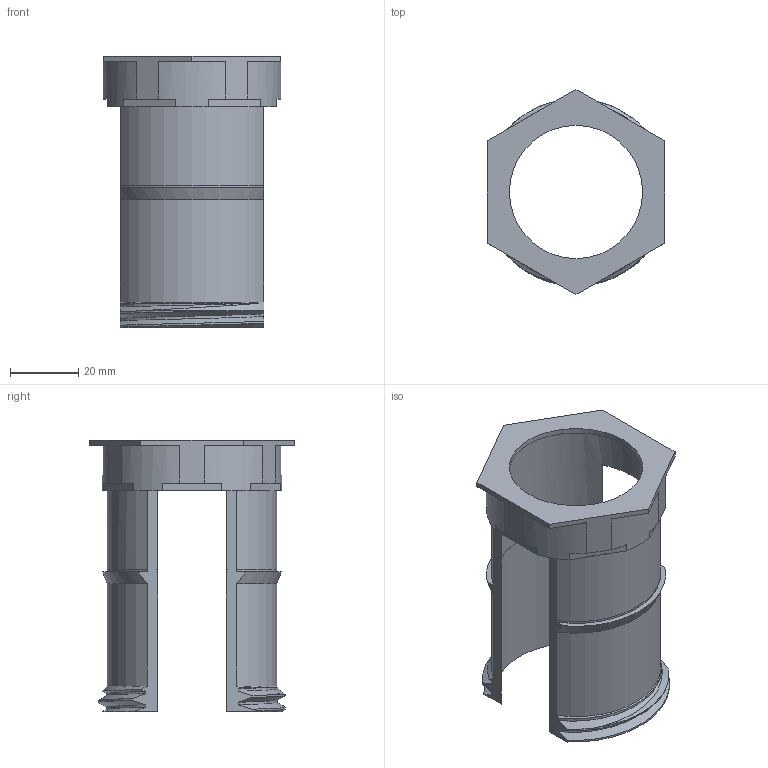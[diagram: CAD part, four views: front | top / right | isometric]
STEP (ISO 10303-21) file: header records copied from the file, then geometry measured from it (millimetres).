
FILE_DESCRIPTION(/* description */ (''),/* implementation_level */ '2;1');
FILE_NAME(/* name */ 'D:/Dokumenty/3D/Luke''s 3D/Projects/Spool winder v3/STEP/Adapter.step',/* time_stamp */ '2021-11-14T12:42:23+01:00',/* author */ (''),/* organization */ (''),/* preprocessor_version */ 'ST-DEVELOPER v18.1',/* originating_system */ 'Autodesk Translation Framework v10.10.0.1391',/* authorisation */ '');
FILE_SCHEMA (('AUTOMOTIVE_DESIGN { 1 0 10303 214 3 1 1 }'));
Length unit declared in the file: millimetre
Products named in the file (2): Bearing socket adapter 2; Adapter
Assembly tree (1 placements, depth 2):
  Bearing socket adapter 2
    Adapter
Bounding box: 51.96 x 60 x 79.4 mm (x, y, z)
Volume: 18649.9 mm3; surface area: 21740.3 mm2
Topology: 1 solids, 1 shells, 74 faces, 218 edges, 146 vertices
Faces by surface type: plane 37, cylinder 24, bspline 9, cone 4
Full cylindrical faces by diameter (mm): 39 x1, 46.5 x1
Entity records: 3484 total; most frequent: CARTESIAN_POINT 1519, ORIENTED_EDGE 436, DIRECTION 361, EDGE_CURVE 218, VERTEX_POINT 146, AXIS2_PLACEMENT_3D 123, LINE 115, VECTOR 115
